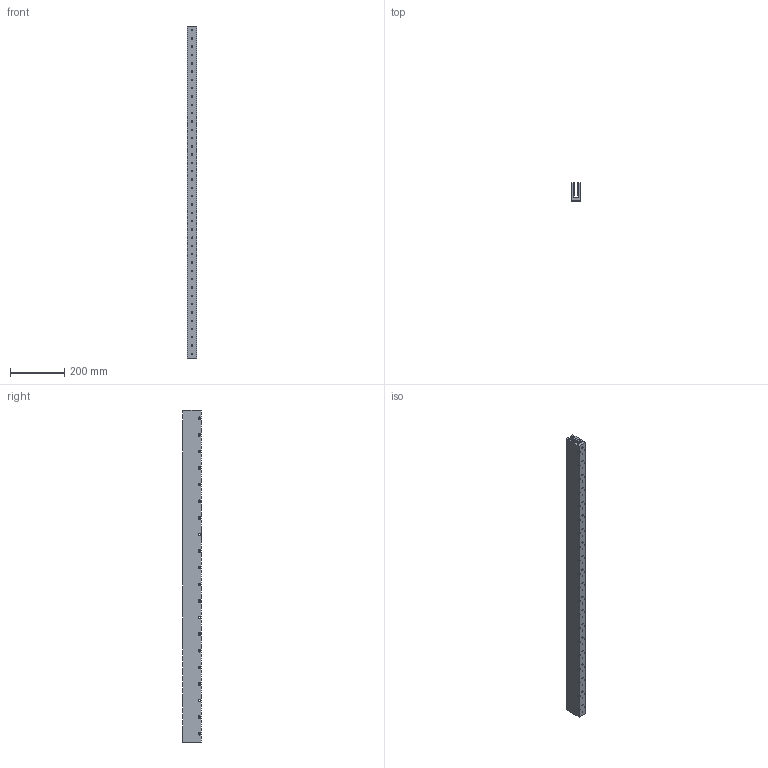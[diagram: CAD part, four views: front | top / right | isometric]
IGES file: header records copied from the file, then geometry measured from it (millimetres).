
Global section: file name: No Iges File Name specified; native system: Autodesk Inventor 2012; preprocessor: AutoDesk Inventor Iges Exporter R2012; author: je17857; date: 20120511.155331; units: inch
Bounding box: 34.29 x 67.31 x 1218.95 mm (x, y, z)
Volume: 1796872.8 mm3; surface area: 469126.2 mm2
Topology: 1 solids, 1 shells, 590 faces, 1364 edges, 916 vertices
Faces by surface type: plane 470, revolution 120
